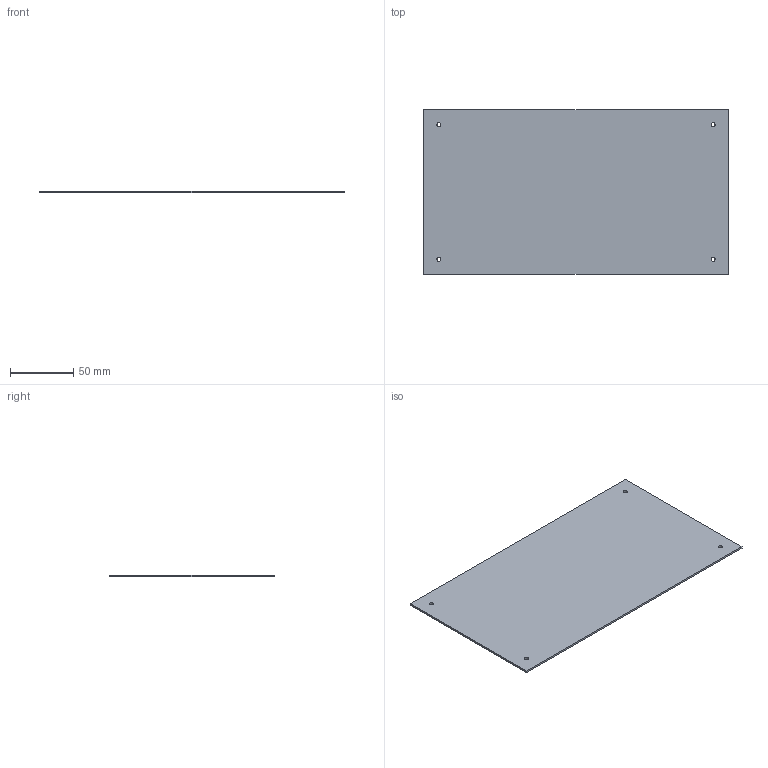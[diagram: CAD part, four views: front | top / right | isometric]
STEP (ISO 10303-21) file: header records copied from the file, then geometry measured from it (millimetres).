
FILE_DESCRIPTION(('KiCad electronic assembly'),'2;1');
FILE_NAME('board.step','2026-08-09T15:50:55',('Pcbnew'),('Kicad'), 'Open CASCADE STEP processor 7.9','KiCad to STEP converter','Unknown' );
FILE_SCHEMA(('AUTOMOTIVE_DESIGN { 1 0 10303 214 1 1 1 1 }'));
Length unit declared in the file: millimetre
Products named in the file (2): board 1; handheld_hybrid_PCB
Assembly tree (1 placements, depth 2):
  board 1
    handheld_hybrid_PCB
Bounding box: 240 x 130 x 1.51 mm (x, y, z)
Volume: 47063.4 mm3; surface area: 63513.8 mm2
Topology: 1 solids, 1 shells, 10 faces, 24 edges, 16 vertices
Faces by surface type: plane 6, cylinder 4
Full cylindrical faces by diameter (mm): 3.2 x4
Entity records: 349 total; most frequent: DIRECTION 56, CARTESIAN_POINT 52, ORIENTED_EDGE 48, EDGE_CURVE 24, AXIS2_PLACEMENT_3D 20, FACE_BOUND 18, EDGE_LOOP 18, VERTEX_POINT 16
